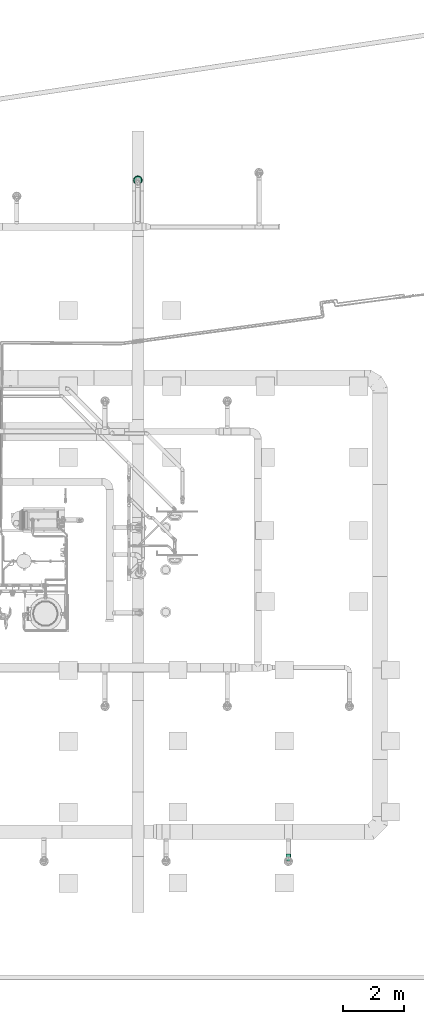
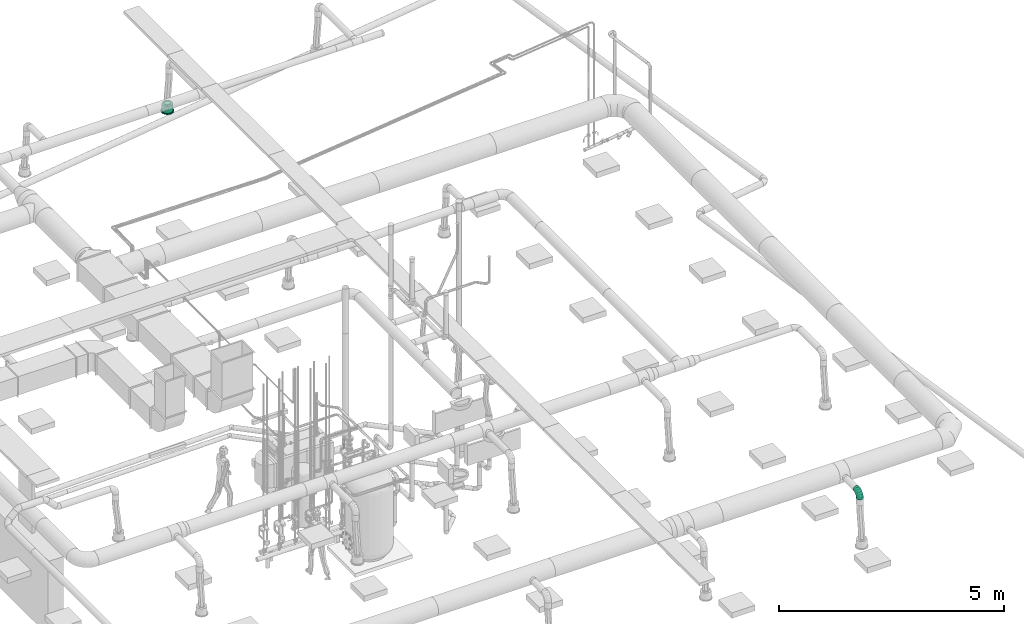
# One storey, part 181 of 374: 1 flow fitting, 1 flow terminal.
"""IFC2X3 building model written with IfcOpenShell, lengths in metres."""

from ifc_helpers import new_model, si_unit, direction, origin, place, context, subcontext, project, spatial, open_shell, surface_model, source, transform, mapped, element, save


model = new_model("IFC2X3")

# Units and contexts
model_context = context("Model", 3, precision=1e-05, world=origin(), true_north=direction((-0.4480736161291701, 0.8939966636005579)))
body_context = subcontext(model_context, "Body", "Model", "MODEL_VIEW")
ifc_project = project(units=[si_unit("LENGTHUNIT", "METRE"), si_unit("AREAUNIT", "SQUARE_METRE"), si_unit("VOLUMEUNIT", "CUBIC_METRE"), si_unit("PLANEANGLEUNIT", "RADIAN"), si_unit("THERMODYNAMICTEMPERATUREUNIT", "KELVIN"), si_unit("MASSUNIT", "GRAM", prefix="KILO"), si_unit("TIMEUNIT", "SECOND")], contexts=[model_context])

# Site, building, storey
site_placement = place(None, origin())
site = spatial("IfcSite", under=ifc_project, at=site_placement, Name="Site 1", CompositionType="ELEMENT")
building_placement = place(site_placement, origin())
building = spatial("IfcBuilding", under=site, at=building_placement, Name="Undefined", CompositionType="ELEMENT")
storey_placement = place(building_placement, origin())
storey = spatial("IfcBuildingStorey", under=building, at=storey_placement, Name="Rez de chauss\x8ee", CompositionType="ELEMENT", Elevation=0.0)

# Flow terminal
shared_shape_1 = source(origin(), body_context, "Body", "SurfaceModel", [
    surface_model("IfcFaceBasedSurfaceModel", [(0.0, 0.0, 0.0), (0.03915785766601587, 0.0, 0.0), (0.03915785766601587, 0.020000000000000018, 0.0), (3.552713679e-15, 0.020000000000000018, 0.0), (0.07698144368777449, 0.0, -0.010134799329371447), (0.07698144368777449, 0.020000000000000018, -0.010134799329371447), (0.11089314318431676, 0.0, -0.02971372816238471), (0.11089314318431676, 0.020000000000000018, -0.02971372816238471), (0.13858192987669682, 0.0, -0.05740251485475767), (0.13858192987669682, 0.020000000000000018, -0.05740251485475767), (0.15816085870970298, 0.0, -0.09131421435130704), (0.15816085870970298, 0.020000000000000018, -0.09131421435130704), (0.16829565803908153, 0.0, -0.12913780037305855), (0.16829565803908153, 0.020000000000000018, -0.12913780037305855), (0.16829565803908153, 0.0, -0.16829565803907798), (0.16829565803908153, 0.020000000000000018, -0.16829565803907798), (0.15816085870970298, 0.0, -0.20611924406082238), (0.15816085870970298, 0.020000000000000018, -0.20611924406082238), (0.13858192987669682, 0.0, -0.24003094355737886), (0.13858192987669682, 0.020000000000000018, -0.24003094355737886), (0.11089314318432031, 0.0, -0.2677197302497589), (0.11089314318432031, 0.020000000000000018, -0.2677197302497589), (0.07698144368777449, 0.0, -0.2872986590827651), (0.07698144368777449, 0.020000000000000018, -0.2872986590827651), (0.039157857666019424, 0.0, -0.29743345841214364), (0.039157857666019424, 0.020000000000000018, -0.29743345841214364), (3.552713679e-15, 0.0, -0.29743345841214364), (3.552713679e-15, 0.020000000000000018, -0.29743345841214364), (-0.03782358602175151, 0.0, -0.2872986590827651), (-0.03782358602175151, 0.020000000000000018, -0.2872986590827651), (-0.07173528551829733, 0.0, -0.2677197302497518), (-0.07173528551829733, 0.020000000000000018, -0.2677197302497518), (-0.0994240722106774, 0.0, -0.24003094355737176), (-0.0994240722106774, 0.020000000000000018, -0.24003094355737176), (-0.11900300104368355, 0.0, -0.2061192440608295), (-0.11900300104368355, 0.020000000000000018, -0.2061192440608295), (-0.1291378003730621, 0.0, -0.16829565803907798), (-0.1291378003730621, 0.020000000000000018, -0.16829565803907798), (-0.1291378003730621, 0.0, -0.12913780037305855), (-0.1291378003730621, 0.020000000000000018, -0.12913780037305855), (-0.11900300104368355, 0.0, -0.09131421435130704), (-0.11900300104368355, 0.020000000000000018, -0.09131421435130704), (-0.0994240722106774, 0.0, -0.05740251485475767), (-0.0994240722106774, 0.020000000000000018, -0.05740251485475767), (-0.07173528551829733, 0.0, -0.029713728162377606), (-0.07173528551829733, 0.020000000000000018, -0.029713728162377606), (-0.03782358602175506, 0.0, -0.010134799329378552), (-0.03782358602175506, 0.020000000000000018, -0.010134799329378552), (0.019578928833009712, 0.0, -0.14871672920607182), (0.019578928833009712, 0.020000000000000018, -0.14871672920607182), (0.003263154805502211, 0.020000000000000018, -0.02478612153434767), (0.035894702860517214, 0.020000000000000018, -0.02478612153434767), (0.035894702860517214, 0.20999999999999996, -0.02478612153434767), (0.003263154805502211, 0.20999999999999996, -0.02478612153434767), (0.06741435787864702, 0.020000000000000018, -0.033231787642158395), (0.06741435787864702, 0.20999999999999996, -0.033231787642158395), (0.0956741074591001, 0.020000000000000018, -0.04954756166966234), (0.0956741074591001, 0.20999999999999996, -0.04954756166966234), (0.11874809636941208, 0.020000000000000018, -0.07262155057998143), (0.11874809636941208, 0.20999999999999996, -0.07262155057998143), (0.13506387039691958, 0.020000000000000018, -0.10088130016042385), (0.13506387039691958, 0.20999999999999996, -0.10088130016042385), (0.1435095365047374, 0.020000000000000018, -0.13240095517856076), (0.1435095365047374, 0.20999999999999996, -0.13240095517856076), (0.1435095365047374, 0.020000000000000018, -0.16503250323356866), (0.1435095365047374, 0.20999999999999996, -0.16503250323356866), (0.13506387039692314, 0.020000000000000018, -0.19655215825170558), (0.13506387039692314, 0.20999999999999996, -0.19655215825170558), (0.11874809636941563, 0.020000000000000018, -0.2248119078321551), (0.11874809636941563, 0.20999999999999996, -0.2248119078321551), (0.09567410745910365, 0.020000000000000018, -0.24788589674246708), (0.09567410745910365, 0.20999999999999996, -0.24788589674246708), (0.06741435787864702, 0.020000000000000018, -0.26420167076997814), (0.06741435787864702, 0.20999999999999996, -0.26420167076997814), (0.035894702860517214, 0.020000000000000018, -0.27264733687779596), (0.035894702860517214, 0.20999999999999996, -0.27264733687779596), (0.0032631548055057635, 0.020000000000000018, -0.27264733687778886), (0.0032631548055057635, 0.20999999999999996, -0.27264733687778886), (-0.028256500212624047, 0.020000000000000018, -0.26420167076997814), (-0.028256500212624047, 0.20999999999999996, -0.26420167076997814), (-0.05651624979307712, 0.020000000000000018, -0.2478858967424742), (-0.05651624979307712, 0.20999999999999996, -0.2478858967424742), (-0.07959023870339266, 0.020000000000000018, -0.2248119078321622), (-0.07959023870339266, 0.20999999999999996, -0.2248119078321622), (-0.09590601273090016, 0.020000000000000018, -0.19655215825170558), (-0.09590601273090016, 0.20999999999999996, -0.19655215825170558), (-0.10435167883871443, 0.020000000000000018, -0.16503250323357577), (-0.10435167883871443, 0.20999999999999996, -0.16503250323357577), (-0.10435167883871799, 0.020000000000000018, -0.13240095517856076), (-0.10435167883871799, 0.20999999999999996, -0.13240095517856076), (-0.09590601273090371, 0.020000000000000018, -0.10088130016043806), (-0.09590601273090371, 0.20999999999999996, -0.10088130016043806), (-0.07959023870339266, 0.020000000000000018, -0.07262155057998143), (-0.07959023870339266, 0.20999999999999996, -0.07262155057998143), (-0.056516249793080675, 0.020000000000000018, -0.04954756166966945), (-0.056516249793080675, 0.20999999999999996, -0.04954756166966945), (-0.028256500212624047, 0.020000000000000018, -0.033231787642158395), (-0.028256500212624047, 0.20999999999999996, -0.033231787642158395), (0.019578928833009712, 0.20999999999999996, -0.14871672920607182), (0.009136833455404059, 0.20999999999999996, -0.06940114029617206), (0.030021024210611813, 0.20999999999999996, -0.06940114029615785), (0.030021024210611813, 0.22999999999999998, -0.06940114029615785), (0.009136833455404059, 0.22999999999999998, -0.06940114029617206), (0.05019360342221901, 0.20999999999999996, -0.07480636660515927), (0.05019360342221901, 0.22999999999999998, -0.07480636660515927), (0.06827984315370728, 0.20999999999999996, -0.08524846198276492), (0.06827984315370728, 0.22999999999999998, -0.08524846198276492), (0.0830471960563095, 0.20999999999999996, -0.10001581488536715), (0.0830471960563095, 0.22999999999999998, -0.10001581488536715), (0.0934892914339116, 0.20999999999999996, -0.11810205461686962), (0.0934892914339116, 0.22999999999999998, -0.11810205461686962), (0.09889451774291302, 0.20999999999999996, -0.13827463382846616), (0.09889451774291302, 0.22999999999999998, -0.13827463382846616), (0.09889451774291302, 0.20999999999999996, -0.15915882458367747), (0.09889451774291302, 0.22999999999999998, -0.15915882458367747), (0.09348929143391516, 0.20999999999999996, -0.179331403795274), (0.09348929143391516, 0.22999999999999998, -0.179331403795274), (0.0830471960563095, 0.20999999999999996, -0.19741764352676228), (0.0830471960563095, 0.22999999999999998, -0.19741764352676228), (0.06827984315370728, 0.20999999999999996, -0.2121849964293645), (0.06827984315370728, 0.22999999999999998, -0.2121849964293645), (0.05019360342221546, 0.20999999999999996, -0.22262709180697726), (0.05019360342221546, 0.22999999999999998, -0.22262709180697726), (0.030021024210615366, 0.20999999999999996, -0.22803231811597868), (0.030021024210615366, 0.22999999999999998, -0.22803231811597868), (0.009136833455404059, 0.20999999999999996, -0.22803231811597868), (0.009136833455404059, 0.22999999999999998, -0.22803231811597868), (-0.011035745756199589, 0.20999999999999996, -0.22262709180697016), (-0.011035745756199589, 0.22999999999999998, -0.22262709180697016), (-0.0291219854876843, 0.20999999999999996, -0.2121849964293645), (-0.0291219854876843, 0.22999999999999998, -0.2121849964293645), (-0.043889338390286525, 0.20999999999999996, -0.19741764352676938), (-0.043889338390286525, 0.22999999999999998, -0.19741764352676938), (-0.05433143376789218, 0.20999999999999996, -0.17933140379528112), (-0.05433143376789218, 0.22999999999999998, -0.17933140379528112), (-0.05973666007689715, 0.20999999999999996, -0.15915882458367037), (-0.05973666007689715, 0.22999999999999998, -0.15915882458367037), (-0.0597366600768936, 0.20999999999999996, -0.13827463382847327), (-0.0597366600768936, 0.22999999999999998, -0.13827463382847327), (-0.05433143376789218, 0.20999999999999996, -0.11810205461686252), (-0.05433143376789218, 0.22999999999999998, -0.11810205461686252), (-0.043889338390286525, 0.20999999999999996, -0.10001581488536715), (-0.043889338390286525, 0.22999999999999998, -0.10001581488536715), (-0.02912198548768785, 0.20999999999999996, -0.08524846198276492), (-0.02912198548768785, 0.22999999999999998, -0.08524846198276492), (-0.011035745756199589, 0.20999999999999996, -0.07480636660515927), (-0.011035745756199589, 0.22999999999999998, -0.07480636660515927)], [open_shell([[[0, 1, 2, 3]], [[1, 4, 5, 2]], [[4, 6, 7, 5]], [[6, 8, 9, 7]], [[8, 10, 11, 9]], [[10, 12, 13, 11]], [[12, 14, 15, 13]], [[14, 16, 17, 15]], [[16, 18, 19, 17]], [[18, 20, 21, 19]], [[20, 22, 23, 21]], [[22, 24, 25, 23]], [[24, 26, 27, 25]], [[26, 28, 29, 27]], [[28, 30, 31, 29]], [[30, 32, 33, 31]], [[32, 34, 35, 33]], [[34, 36, 37, 35]], [[36, 38, 39, 37]], [[38, 40, 41, 39]], [[40, 42, 43, 41]], [[42, 44, 45, 43]], [[44, 46, 47, 45]], [[46, 0, 3, 47]], [[48, 1, 0]], [[48, 4, 1]], [[48, 6, 4]], [[48, 8, 6]], [[48, 10, 8]], [[48, 12, 10]], [[48, 14, 12]], [[48, 16, 14]], [[48, 18, 16]], [[48, 20, 18]], [[48, 22, 20]], [[48, 24, 22]], [[48, 26, 24]], [[48, 28, 26]], [[48, 30, 28]], [[48, 32, 30]], [[48, 34, 32]], [[48, 36, 34]], [[48, 38, 36]], [[48, 40, 38]], [[48, 42, 40]], [[48, 44, 42]], [[48, 46, 44]], [[48, 0, 46]], [[49, 47, 3]], [[49, 45, 47]], [[49, 43, 45]], [[49, 41, 43]], [[49, 39, 41]], [[49, 37, 39]], [[49, 35, 37]], [[49, 33, 35]], [[49, 31, 33]], [[49, 29, 31]], [[49, 27, 29]], [[49, 25, 27]], [[49, 23, 25]], [[49, 21, 23]], [[49, 19, 21]], [[49, 17, 19]], [[49, 15, 17]], [[49, 13, 15]], [[49, 11, 13]], [[49, 9, 11]], [[49, 7, 9]], [[49, 5, 7]], [[49, 2, 5]], [[49, 3, 2]], [[50, 51, 52, 53]], [[51, 54, 55, 52]], [[54, 56, 57, 55]], [[56, 58, 59, 57]], [[58, 60, 61, 59]], [[60, 62, 63, 61]], [[62, 64, 65, 63]], [[64, 66, 67, 65]], [[66, 68, 69, 67]], [[68, 70, 71, 69]], [[70, 72, 73, 71]], [[72, 74, 75, 73]], [[74, 76, 77, 75]], [[76, 78, 79, 77]], [[78, 80, 81, 79]], [[80, 82, 83, 81]], [[82, 84, 85, 83]], [[84, 86, 87, 85]], [[86, 88, 89, 87]], [[88, 90, 91, 89]], [[90, 92, 93, 91]], [[92, 94, 95, 93]], [[94, 96, 97, 95]], [[96, 50, 53, 97]], [[49, 51, 50]], [[49, 54, 51]], [[49, 56, 54]], [[49, 58, 56]], [[49, 60, 58]], [[49, 62, 60]], [[49, 64, 62]], [[49, 66, 64]], [[49, 68, 66]], [[49, 70, 68]], [[49, 72, 70]], [[49, 74, 72]], [[49, 76, 74]], [[49, 78, 76]], [[49, 80, 78]], [[49, 82, 80]], [[49, 84, 82]], [[49, 86, 84]], [[49, 88, 86]], [[49, 90, 88]], [[49, 92, 90]], [[49, 94, 92]], [[49, 96, 94]], [[49, 50, 96]], [[98, 97, 53]], [[98, 95, 97]], [[98, 93, 95]], [[98, 91, 93]], [[98, 89, 91]], [[98, 87, 89]], [[98, 85, 87]], [[98, 83, 85]], [[98, 81, 83]], [[98, 79, 81]], [[98, 77, 79]], [[98, 75, 77]], [[98, 73, 75]], [[98, 71, 73]], [[98, 69, 71]], [[98, 67, 69]], [[98, 65, 67]], [[98, 63, 65]], [[98, 61, 63]], [[98, 59, 61]], [[98, 57, 59]], [[98, 55, 57]], [[98, 52, 55]], [[98, 53, 52]], [[99, 100, 101, 102]], [[100, 103, 104, 101]], [[103, 105, 106, 104]], [[105, 107, 108, 106]], [[107, 109, 110, 108]], [[109, 111, 112, 110]], [[111, 113, 114, 112]], [[113, 115, 116, 114]], [[115, 117, 118, 116]], [[117, 119, 120, 118]], [[119, 121, 122, 120]], [[121, 123, 124, 122]], [[123, 125, 126, 124]], [[125, 127, 128, 126]], [[127, 129, 130, 128]], [[129, 131, 132, 130]], [[131, 133, 134, 132]], [[133, 135, 136, 134]], [[135, 137, 138, 136]], [[137, 139, 140, 138]], [[139, 141, 142, 140]], [[141, 143, 144, 142]], [[143, 145, 146, 144]], [[145, 99, 102, 146]]])]),
])
flow_terminal_placement = place(storey_placement, origin())
element("IfcFlowTerminal", 1, at=flow_terminal_placement, inside=storey, Name="Air diffuseur - bouche", ObjectType="Air diffuseur - bouche", context=body_context, shape_type="MappedRepresentation", body=[
    mapped(shared_shape_1, transform((57.36100041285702, 24.035797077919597, 2.38), x_axis=(0.9914448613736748, 0.13052619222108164, 0.0), y_axis=(0.0, 0.0, 1.0), z_axis=(0.13052619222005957, -0.9914448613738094, 0.0))),
])

# Flow fitting
shared_shape_2 = source(origin(), body_context, "Body", "SurfaceModel", [
    surface_model("IfcFaceBasedSurfaceModel", [(0.06265257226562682, -8.8817842e-16, 0.0), (0.062296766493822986, 0.02088115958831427, -7.105427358e-15), (0.0003558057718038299, 0.020881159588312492, 7.105427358e-15), (0.0, 0.0, 0.0), (-0.059474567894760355, 0.022956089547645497, -0.015896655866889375), (-0.06051773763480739, 0.002098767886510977, -0.01607928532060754), (-0.11311701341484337, 0.02696454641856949, -0.04660663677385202), (-0.11477645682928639, 0.006153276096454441, -0.04714207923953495), (-0.15691588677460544, 0.0326333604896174, -0.09003710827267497), (-0.15907851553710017, 0.01188721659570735, -0.09107150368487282), (-0.18788636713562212, 0.03957621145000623, -0.14322835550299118), (-0.1904048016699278, 0.01890983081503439, -0.14487384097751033), (-0.2039178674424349, 0.04731995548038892, -0.20255548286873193), (-0.20662048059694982, 0.026742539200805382, -0.20488255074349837), (0.061253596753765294, 0.04103889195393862, -0.0053597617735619), (0.0013989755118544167, 0.04103889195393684, -0.005359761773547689), (-0.05641614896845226, 0.04304393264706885, -0.02072097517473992), (-0.10825177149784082, 0.04691737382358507, -0.050396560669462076), (-0.15057538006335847, 0.05239524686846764, -0.09236417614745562), (-0.18050269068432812, 0.05910424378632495, -0.14376379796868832), (-0.19599420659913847, 0.06658715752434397, -0.20109262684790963), (0.05959415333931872, 0.05909948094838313, -0.01571402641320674), (0.003058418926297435, 0.05909948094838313, -0.01571402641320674), (-0.05155090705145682, 0.06099334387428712, -0.030223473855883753), (-0.10051228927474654, 0.06465200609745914, -0.058253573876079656), (-0.1404890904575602, 0.0698261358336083, -0.09789412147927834), (-0.16875695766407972, 0.0761631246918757, -0.14644367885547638), (-0.18338948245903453, 0.08323111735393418, -0.2005936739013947), (0.057431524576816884, 0.07383212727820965, -0.030357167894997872), (0.005221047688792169, 0.07383212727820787, -0.03035716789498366), (-0.0452104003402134, 0.07558110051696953, -0.04375657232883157), (-0.09042599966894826, 0.07895985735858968, -0.06964223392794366), (-0.12734438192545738, 0.08373814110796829, -0.10625008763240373), (-0.15344962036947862, 0.08959031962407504, -0.15108536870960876), (-0.16696268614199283, 0.0961175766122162, -0.20109262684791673), (0.054913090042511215, 0.0842328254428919, -0.048291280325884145), (0.007739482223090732, 0.08423282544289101, -0.04829128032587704), (-0.037826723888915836, 0.08581307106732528, -0.06039801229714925), (-0.07868026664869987, 0.08886587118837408, -0.08378642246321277), (-0.11203704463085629, 0.09318318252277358, -0.11686262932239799), (-0.13562384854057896, 0.09847078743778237, -0.1573725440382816), (-0.14783327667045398, 0.10436834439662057, -0.20255548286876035), (0.05221047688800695, 0.0895927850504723, -0.06829418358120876), (0.010442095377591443, 0.08959278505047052, -0.06829418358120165), (-0.029903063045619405, 0.09099196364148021, -0.07901370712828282), (-0.06607554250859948, 0.09369496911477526, -0.0997222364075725), (-0.0956102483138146, 0.0975175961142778, -0.12900851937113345), (-0.11649443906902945, 0.10219933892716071, -0.16487674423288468), (-0.12730489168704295, 0.1074211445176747, -0.2048825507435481), (0.04950786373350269, 0.08954673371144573, -0.08900271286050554), (0.013144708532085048, 0.08954673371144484, -0.08900271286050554), (-0.02197940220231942, 0.09076484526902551, -0.09833502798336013), (-0.05347081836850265, 0.09311805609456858, -0.11636367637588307), (-0.0791834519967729, 0.09644599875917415, -0.14186003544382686), (-0.09736502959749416, 0.10052187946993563, -0.17308657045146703), (-0.10677650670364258, 0.1050679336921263, -0.20791524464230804), (0.04698942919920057, 0.08409780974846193, -0.10900561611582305), (0.015663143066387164, 0.08409780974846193, -0.10900561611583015), (-0.014595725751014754, 0.08514719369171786, -0.11704525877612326), (-0.0417250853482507, 0.0871744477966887, -0.13257665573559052), (-0.06387611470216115, 0.09004141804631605, -0.15454136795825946), (-0.07953925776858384, 0.09355272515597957, -0.1814425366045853), (-0.08764709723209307, 0.09746907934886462, -0.21144689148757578), (0.04482680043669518, 0.0736173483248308, -0.12693972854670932), (0.017825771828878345, 0.0736173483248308, -0.12693972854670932), (-0.008255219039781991, 0.07452184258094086, -0.13386932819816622), (-0.03163879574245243, 0.0762691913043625, -0.14725628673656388), (-0.050731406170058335, 0.07874031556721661, -0.1661883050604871), (-0.06423192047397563, 0.08176681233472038, -0.18937519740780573), (-0.07122030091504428, 0.08514243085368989, -0.21523681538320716), (0.04316735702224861, 0.058819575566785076, -0.14158287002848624), (0.019485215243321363, 0.058819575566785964, -0.14158287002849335), (-0.0033899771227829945, 0.05961289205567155, -0.14766070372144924), (-0.02389931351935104, 0.06114546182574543, -0.15940217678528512), (-0.04064511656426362, 0.06331284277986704, -0.17600712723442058), (-0.052486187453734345, 0.06596733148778, -0.19634395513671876), (-0.05861557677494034, 0.06892802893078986, -0.2190267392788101), (0.04212418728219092, 0.040712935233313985, -0.15193713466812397), (0.020528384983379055, 0.040712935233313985, -0.15193713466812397), (-0.0003315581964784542, 0.041436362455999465, -0.15747952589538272), (-0.019034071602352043, 0.04283391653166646, -0.16818660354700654), (-0.03430460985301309, 0.04481035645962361, -0.1833286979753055), (-0.04510251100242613, 0.047230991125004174, -0.20187390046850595), (-0.05069191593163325, 0.04993085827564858, -0.22255838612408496), (0.04176838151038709, 0.02053136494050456, -0.15729689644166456), (0.020884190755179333, 0.02053136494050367, -0.15729689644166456), (0.0007116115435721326, 0.021230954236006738, -0.16265665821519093), (-0.017374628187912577, 0.022582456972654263, -0.17301092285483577), (-0.03214198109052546, 0.024493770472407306, -0.1876540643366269), (-0.042584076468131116, 0.026834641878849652, -0.20558817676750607), (-0.04798930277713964, 0.02944554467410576, -0.22559108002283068), (0.04212418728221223, -0.000349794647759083, -0.15729689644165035), (0.020528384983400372, -0.000349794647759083, -0.15729689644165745), (-0.0003315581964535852, 0.00037363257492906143, -0.1628392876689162), (-0.019034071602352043, 0.0017711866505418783, -0.17354636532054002), (-0.03430460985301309, 0.0037476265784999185, -0.18868845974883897), (-0.04510251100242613, 0.00616826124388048, -0.20723366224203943), (-0.05069191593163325, 0.008868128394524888, -0.22791814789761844), (0.04316735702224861, -0.020507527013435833, -0.15193713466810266), (0.019485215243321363, -0.020507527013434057, -0.15193713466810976), (-0.0033899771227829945, -0.019714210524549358, -0.15801496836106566), (-0.02389931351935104, -0.01818164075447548, -0.16975644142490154), (-0.04064511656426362, -0.01601425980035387, -0.186361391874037), (-0.052486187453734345, -0.013359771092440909, -0.20669821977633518), (-0.05861557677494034, -0.010399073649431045, -0.22938100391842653), (0.04482680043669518, -0.03856811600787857, -0.1415828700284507), (0.017825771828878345, -0.03856811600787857, -0.1415828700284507), (-0.008255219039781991, -0.03766362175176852, -0.1485124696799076), (-0.03163879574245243, -0.03591627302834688, -0.16189942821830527), (-0.050731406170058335, -0.03344514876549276, -0.1808314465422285), (-0.06423192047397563, -0.030418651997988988, -0.20401833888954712), (-0.07122030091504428, -0.027043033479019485, -0.22987995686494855), (0.04698942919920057, -0.05330076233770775, -0.12693972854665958), (0.015663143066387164, -0.05330076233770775, -0.12693972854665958), (-0.014595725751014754, -0.05225137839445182, -0.1349793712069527), (-0.0417250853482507, -0.05022412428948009, -0.15051076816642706), (-0.06387611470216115, -0.047357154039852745, -0.172475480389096), (-0.07953925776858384, -0.043845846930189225, -0.19937664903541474), (-0.08764709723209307, -0.03992949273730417, -0.2293810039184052), (0.04950786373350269, -0.06370146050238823, -0.10900561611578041), (0.013144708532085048, -0.06370146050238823, -0.10900561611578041), (-0.02197940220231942, -0.06248334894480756, -0.11833793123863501), (-0.05347081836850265, -0.06013013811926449, -0.13636657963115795), (-0.0791834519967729, -0.05680219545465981, -0.16186293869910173), (-0.09736502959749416, -0.05272631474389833, -0.1930894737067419), (-0.10677650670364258, -0.04818026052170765, -0.2279181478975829), (0.05221047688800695, -0.06906142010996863, -0.08900271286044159), (0.010442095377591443, -0.06906142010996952, -0.08900271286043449), (-0.029903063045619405, -0.06766224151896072, -0.09972223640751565), (-0.06607554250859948, -0.06495923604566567, -0.12043076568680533), (-0.0956102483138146, -0.06113660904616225, -0.14971704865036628), (-0.11649443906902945, -0.05645486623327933, -0.1855852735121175), (-0.12730489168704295, -0.05123306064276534, -0.22559108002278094), (0.054913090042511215, -0.06901536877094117, -0.06829418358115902), (0.007739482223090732, -0.06901536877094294, -0.06829418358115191), (-0.037826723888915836, -0.06743512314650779, -0.08040091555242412), (-0.07868026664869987, -0.06438232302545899, -0.10378932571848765), (-0.11203704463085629, -0.06006501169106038, -0.13686553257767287), (-0.13562384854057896, -0.0547774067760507, -0.17737544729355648), (-0.14783327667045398, -0.04887984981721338, -0.22255838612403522), (0.057431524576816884, -0.06356644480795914, -0.0482912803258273), (0.005221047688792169, -0.06356644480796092, -0.04829128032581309), (-0.0452104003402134, -0.061817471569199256, -0.0616906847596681), (-0.09042599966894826, -0.05843871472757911, -0.0875763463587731), (-0.12734438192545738, -0.05366043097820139, -0.12418420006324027), (-0.15344962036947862, -0.04780825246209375, -0.1690194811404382), (-0.16696268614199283, -0.041280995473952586, -0.21902673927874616), (0.05959415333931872, -0.05308598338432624, -0.030357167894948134), (0.003058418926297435, -0.05308598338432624, -0.030357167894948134), (-0.05155090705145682, -0.05119212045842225, -0.04486661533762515), (-0.10051228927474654, -0.04753345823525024, -0.07289671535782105), (-0.1404890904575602, -0.04235932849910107, -0.11253726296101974), (-0.16875695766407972, -0.03602233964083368, -0.16108682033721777), (-0.18338948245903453, -0.02895434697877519, -0.2152368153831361), (0.061253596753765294, -0.03828821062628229, -0.015714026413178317), (0.0013989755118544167, -0.03828821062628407, -0.015714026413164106), (-0.05641614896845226, -0.03628316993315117, -0.031075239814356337), (-0.10825177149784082, -0.03240972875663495, -0.06075082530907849), (-0.15057538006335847, -0.026931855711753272, -0.10271844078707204), (-0.18050269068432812, -0.02022285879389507, -0.15411806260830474), (-0.19599420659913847, -0.012739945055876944, -0.21144689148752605), (0.062296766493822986, -0.020181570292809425, -0.005359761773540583), (0.0003558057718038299, -0.020181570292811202, -0.0053597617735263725), (-0.059474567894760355, -0.018106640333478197, -0.021256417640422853), (-0.11311701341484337, -0.014098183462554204, -0.051966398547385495), (-0.15691588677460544, -0.00842936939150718, -0.09539687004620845), (-0.18788636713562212, -0.0014865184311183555, -0.14858811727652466), (-0.2039178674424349, 0.006257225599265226, -0.2079152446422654)], [open_shell([[[0, 1, 2, 3]], [[3, 2, 4, 5]], [[5, 4, 6, 7]], [[7, 6, 8, 9]], [[9, 8, 10, 11]], [[11, 10, 12, 13]], [[1, 14, 15, 2]], [[2, 15, 16, 4]], [[4, 16, 17, 6]], [[6, 17, 18, 8]], [[8, 18, 19, 10]], [[10, 19, 20, 12]], [[14, 21, 22, 15]], [[15, 22, 23, 16]], [[16, 23, 24, 17]], [[17, 24, 25, 18]], [[18, 25, 26, 19]], [[19, 26, 27, 20]], [[21, 28, 29, 22]], [[22, 29, 30, 23]], [[23, 30, 31, 24]], [[24, 31, 32, 25]], [[25, 32, 33, 26]], [[26, 33, 34, 27]], [[28, 35, 36, 29]], [[29, 36, 37, 30]], [[30, 37, 38, 31]], [[31, 38, 39, 32]], [[32, 39, 40, 33]], [[33, 40, 41, 34]], [[35, 42, 43, 36]], [[36, 43, 44, 37]], [[37, 44, 45, 38]], [[38, 45, 46, 39]], [[39, 46, 47, 40]], [[40, 47, 48, 41]], [[42, 49, 50, 43]], [[43, 50, 51, 44]], [[44, 51, 52, 45]], [[45, 52, 53, 46]], [[46, 53, 54, 47]], [[47, 54, 55, 48]], [[49, 56, 57, 50]], [[50, 57, 58, 51]], [[51, 58, 59, 52]], [[52, 59, 60, 53]], [[53, 60, 61, 54]], [[54, 61, 62, 55]], [[56, 63, 64, 57]], [[57, 64, 65, 58]], [[58, 65, 66, 59]], [[59, 66, 67, 60]], [[60, 67, 68, 61]], [[61, 68, 69, 62]], [[63, 70, 71, 64]], [[64, 71, 72, 65]], [[65, 72, 73, 66]], [[66, 73, 74, 67]], [[67, 74, 75, 68]], [[68, 75, 76, 69]], [[70, 77, 78, 71]], [[71, 78, 79, 72]], [[72, 79, 80, 73]], [[73, 80, 81, 74]], [[74, 81, 82, 75]], [[75, 82, 83, 76]], [[77, 84, 85, 78]], [[78, 85, 86, 79]], [[79, 86, 87, 80]], [[80, 87, 88, 81]], [[81, 88, 89, 82]], [[82, 89, 90, 83]], [[84, 91, 92, 85]], [[85, 92, 93, 86]], [[86, 93, 94, 87]], [[87, 94, 95, 88]], [[88, 95, 96, 89]], [[89, 96, 97, 90]], [[91, 98, 99, 92]], [[92, 99, 100, 93]], [[93, 100, 101, 94]], [[94, 101, 102, 95]], [[95, 102, 103, 96]], [[96, 103, 104, 97]], [[98, 105, 106, 99]], [[99, 106, 107, 100]], [[100, 107, 108, 101]], [[101, 108, 109, 102]], [[102, 109, 110, 103]], [[103, 110, 111, 104]], [[105, 112, 113, 106]], [[106, 113, 114, 107]], [[107, 114, 115, 108]], [[108, 115, 116, 109]], [[109, 116, 117, 110]], [[110, 117, 118, 111]], [[112, 119, 120, 113]], [[113, 120, 121, 114]], [[114, 121, 122, 115]], [[115, 122, 123, 116]], [[116, 123, 124, 117]], [[117, 124, 125, 118]], [[119, 126, 127, 120]], [[120, 127, 128, 121]], [[121, 128, 129, 122]], [[122, 129, 130, 123]], [[123, 130, 131, 124]], [[124, 131, 132, 125]], [[126, 133, 134, 127]], [[127, 134, 135, 128]], [[128, 135, 136, 129]], [[129, 136, 137, 130]], [[130, 137, 138, 131]], [[131, 138, 139, 132]], [[133, 140, 141, 134]], [[134, 141, 142, 135]], [[135, 142, 143, 136]], [[136, 143, 144, 137]], [[137, 144, 145, 138]], [[138, 145, 146, 139]], [[140, 147, 148, 141]], [[141, 148, 149, 142]], [[142, 149, 150, 143]], [[143, 150, 151, 144]], [[144, 151, 152, 145]], [[145, 152, 153, 146]], [[147, 154, 155, 148]], [[148, 155, 156, 149]], [[149, 156, 157, 150]], [[150, 157, 158, 151]], [[151, 158, 159, 152]], [[152, 159, 160, 153]], [[154, 161, 162, 155]], [[155, 162, 163, 156]], [[156, 163, 164, 157]], [[157, 164, 165, 158]], [[158, 165, 166, 159]], [[159, 166, 167, 160]], [[161, 0, 3, 162]], [[162, 3, 5, 163]], [[163, 5, 7, 164]], [[164, 7, 9, 165]], [[165, 9, 11, 166]], [[166, 11, 13, 167]]])]),
])
flow_fitting_placement = place(storey_placement, origin())
element("IfcFlowFitting", 2, at=flow_fitting_placement, inside=storey, Name="Coude", ObjectType="Coude", context=body_context, shape_type="MappedRepresentation", body=[
    mapped(shared_shape_2, transform((62.290001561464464, 1.8881775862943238, 3.702116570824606), x_axis=(9.56658874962e-13, -0.13052619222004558, -0.9914448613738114), y_axis=(0.9915887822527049, 0.12832103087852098, -0.01689378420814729), z_axis=(0.12942830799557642, -0.983105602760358, 0.1294283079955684))),
])

save(model, "model.ifc")
